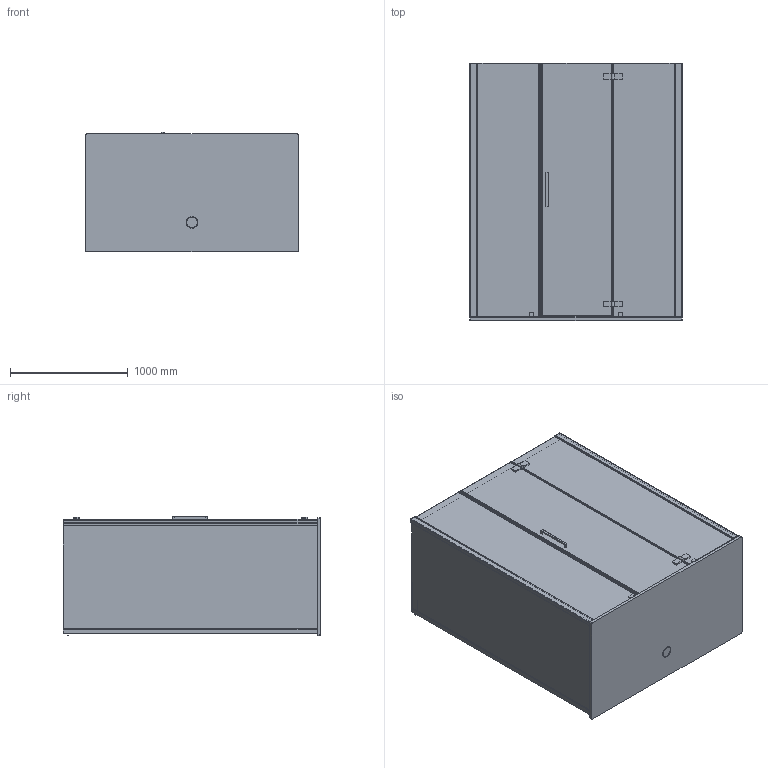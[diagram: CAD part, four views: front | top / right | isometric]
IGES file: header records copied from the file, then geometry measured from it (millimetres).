
Start section: SolidWorks IGES file using analytic representation for surfaces
Global section: file name: D:\Users\M.Szymanski\Desktop\Kabiny\SENSEPEREINCE\03. do przegrania\Senseperience_1800x1000_NR_K3D.IGS; native system: SolidWorks 2011; preprocessor: SolidWorks 2011; author: M.Szymanski; date: 181218.094205; units: millimetre
Bounding box: 1800 x 2180 x 1014.5 mm (x, y, z)
Surface area: 37896337.3 mm2 (no closed solid volume)
Topology: 0 solids, 0 shells, 1834 faces, 12561 edges, 15232 vertices
Faces by surface type: bspline 1190, revolution 644
